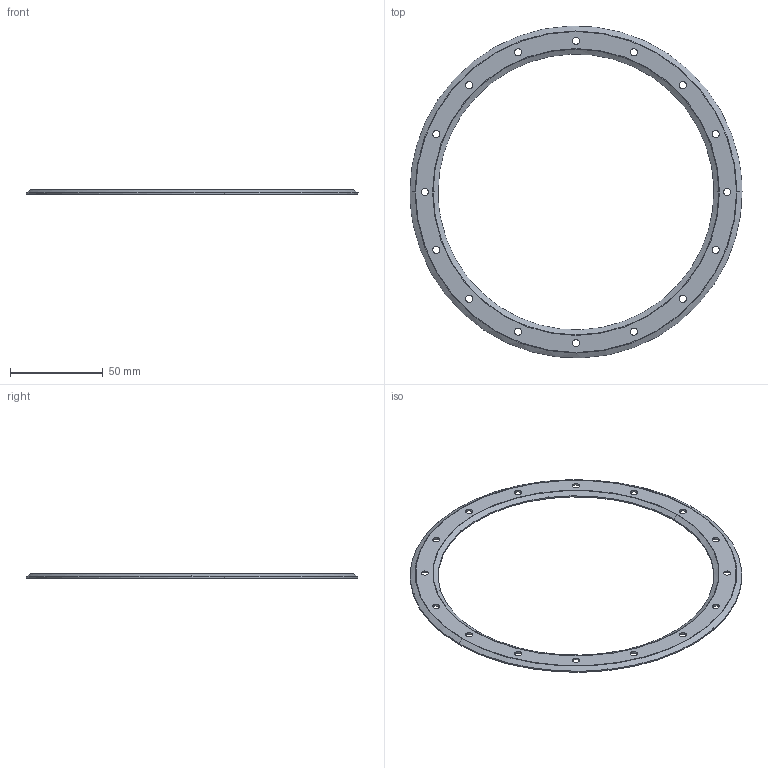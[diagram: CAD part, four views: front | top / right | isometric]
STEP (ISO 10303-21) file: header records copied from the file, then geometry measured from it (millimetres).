
FILE_DESCRIPTION (( 'STEP AP214' ), '1' );
FILE_NAME ('0020-79097_ïðèæèìíîå êîëüöî äèàôðàãìû.STEP', '2026-03-23T12:02:10', ( '' ), ( '' ), 'SwSTEP 2.0', 'SolidWorks 2022', '' );
FILE_SCHEMA (( 'AUTOMOTIVE_DESIGN' ));
Length unit declared in the file: millimetre
Products named in the file (1): 0020-79097_прижимное кольцо диафрагмы
Bounding box: 178.74 x 178.62 x 2.3 mm (x, y, z)
Volume: 14621.3 mm3; surface area: 16773.7 mm2
Topology: 1 solids, 1 shells, 123 faces, 296 edges, 174 vertices
Faces by surface type: torus 36, cone 36, plane 33, cylinder 18
Entity records: 3706 total; most frequent: DIRECTION 738, CARTESIAN_POINT 594, ORIENTED_EDGE 592, AXIS2_PLACEMENT_3D 318, EDGE_CURVE 296, CIRCLE 194, VERTEX_POINT 174, EDGE_LOOP 156
